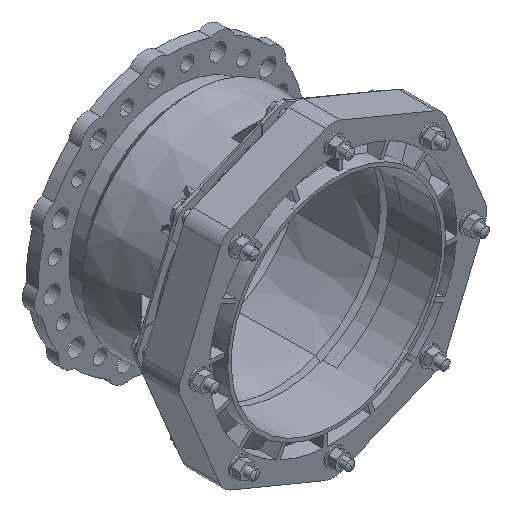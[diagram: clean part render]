
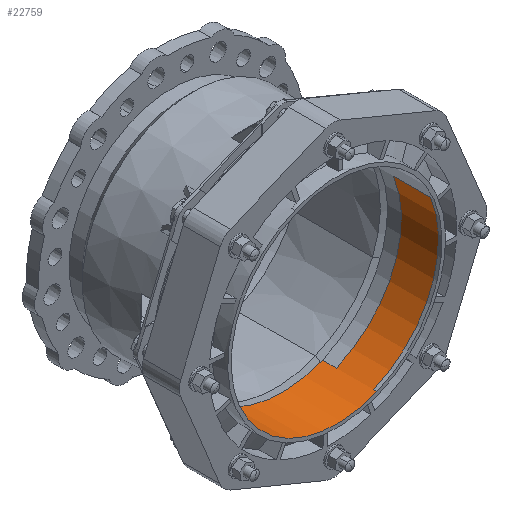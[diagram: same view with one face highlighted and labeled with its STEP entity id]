
A CAD part, isometric view. The second image highlights one B-rep face of the part: STEP entity #22759.
In plain terms, the highlighted cylindrical face has radius 179 mm (diameter 358 mm), a partial arc.
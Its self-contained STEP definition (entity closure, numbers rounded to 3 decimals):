
#19932=CARTESIAN_POINT('',(0.,0.,-86.523));
#19933=DIRECTION('',(0.,0.,1.));
#19934=DIRECTION('',(0.,1.,0.));
#19935=AXIS2_PLACEMENT_3D('',#19932,#19933,#19934);
#19937=CARTESIAN_POINT('',(0.,0.,-63.));
#19938=DIRECTION('',(0.,0.,1.));
#19939=DIRECTION('',(0.,-1.,0.));
#19940=AXIS2_PLACEMENT_3D('',#19937,#19938,#19939);
#19942=DIRECTION('',(0.,0.,-1.));
#19943=VECTOR('',#19942,63.);
#19944=CARTESIAN_POINT('',(179.,0.,0.));
#19945=LINE('',#19944,#19943);
#19946=CARTESIAN_POINT('',(0.,0.,0.));
#19947=DIRECTION('',(0.,0.,1.));
#19948=DIRECTION('',(0.,-1.,0.));
#19949=AXIS2_PLACEMENT_3D('',#19946,#19947,#19948);
#19951=CARTESIAN_POINT('',(0.,0.,6.));
#19952=DIRECTION('',(0.,0.,1.));
#19953=DIRECTION('',(0.,1.,0.));
#19954=AXIS2_PLACEMENT_3D('',#19951,#19952,#19953);
#19956=CARTESIAN_POINT('',(0.,0.,0.));
#19957=DIRECTION('',(0.,0.,1.));
#19958=DIRECTION('',(0.,1.,0.));
#19959=AXIS2_PLACEMENT_3D('',#19956,#19957,#19958);
#19961=DIRECTION('',(0.,0.,-1.));
#19962=VECTOR('',#19961,6.);
#19963=CARTESIAN_POINT('',(0.,179.,6.));
#19964=LINE('',#19963,#19962);
#19970=DIRECTION('',(0.,0.,-1.));
#19971=VECTOR('',#19970,6.);
#19972=CARTESIAN_POINT('',(0.,-179.,6.));
#19973=LINE('',#19972,#19971);
#19974=DIRECTION('',(0.,0.,-1.));
#19975=VECTOR('',#19974,23.523);
#19976=CARTESIAN_POINT('',(0.,-179.,-63.));
#19977=LINE('',#19976,#19975);
#19978=DIRECTION('',(0.,0.,-1.));
#19979=VECTOR('',#19978,23.523);
#19980=CARTESIAN_POINT('',(0.,179.,-63.));
#19981=LINE('',#19980,#19979);
#19982=CARTESIAN_POINT('',(0.,0.,-63.));
#19983=DIRECTION('',(0.,0.,1.));
#19984=DIRECTION('',(0.,1.,0.));
#19985=AXIS2_PLACEMENT_3D('',#19982,#19983,#19984);
#19987=DIRECTION('',(0.,0.,-1.));
#19988=VECTOR('',#19987,63.);
#19989=CARTESIAN_POINT('',(-179.,0.,0.));
#19990=LINE('',#19989,#19988);
#20939=CARTESIAN_POINT('',(0.,179.,6.));
#20940=CARTESIAN_POINT('',(0.,-179.,6.));
#20941=VERTEX_POINT('',#20939);
#20942=VERTEX_POINT('',#20940);
#20943=CARTESIAN_POINT('',(0.,179.,0.));
#20944=CARTESIAN_POINT('',(-179.,0.,0.));
#20945=VERTEX_POINT('',#20943);
#20946=VERTEX_POINT('',#20944);
#20947=CARTESIAN_POINT('',(0.,-179.,0.));
#20948=CARTESIAN_POINT('',(179.,0.,0.));
#20949=VERTEX_POINT('',#20947);
#20950=VERTEX_POINT('',#20948);
#20951=CARTESIAN_POINT('',(179.,0.,-63.));
#20952=VERTEX_POINT('',#20951);
#20953=CARTESIAN_POINT('',(-179.,0.,-63.));
#20954=VERTEX_POINT('',#20953);
#21395=CARTESIAN_POINT('',(0.,179.,-86.523));
#21397=VERTEX_POINT('',#21395);
#21399=CARTESIAN_POINT('',(0.,-179.,-86.523));
#21401=VERTEX_POINT('',#21399);
#21403=CARTESIAN_POINT('',(0.,179.,-63.));
#21404=VERTEX_POINT('',#21403);
#21409=CARTESIAN_POINT('',(0.,-179.,-63.));
#21410=VERTEX_POINT('',#21409);
#22729=CARTESIAN_POINT('',(0.,0.,0.));
#22730=DIRECTION('',(0.,0.,1.));
#22731=DIRECTION('',(1.,0.,0.));
#22732=AXIS2_PLACEMENT_3D('',#22729,#22730,#22731);
#22733=CYLINDRICAL_SURFACE('',#22732,179.);
#22735=ORIENTED_EDGE('',*,*,#22734,.T.);
#22737=ORIENTED_EDGE('',*,*,#22736,.F.);
#22739=ORIENTED_EDGE('',*,*,#22738,.T.);
#22740=ORIENTED_EDGE('',*,*,#22724,.T.);
#22742=ORIENTED_EDGE('',*,*,#22741,.F.);
#22744=ORIENTED_EDGE('',*,*,#22743,.T.);
#22746=ORIENTED_EDGE('',*,*,#22745,.F.);
#22748=ORIENTED_EDGE('',*,*,#22747,.F.);
#22750=ORIENTED_EDGE('',*,*,#22749,.F.);
#22752=ORIENTED_EDGE('',*,*,#22751,.F.);
#22754=ORIENTED_EDGE('',*,*,#22753,.T.);
#22756=ORIENTED_EDGE('',*,*,#22755,.T.);
#22757=EDGE_LOOP('',(#22735,#22737,#22739,#22740,#22742,#22744,#22746,#22748,
#22750,#22752,#22754,#22756));
#22758=FACE_OUTER_BOUND('',#22757,.F.);
#22759=ADVANCED_FACE('',(#22758),#22733,.F.);
#19936=CIRCLE('',#19935,179.);
#19941=CIRCLE('',#19940,179.);
#19950=CIRCLE('',#19949,179.);
#19955=CIRCLE('',#19954,179.);
#19960=CIRCLE('',#19959,179.);
#19986=CIRCLE('',#19985,179.);
#22724=EDGE_CURVE('',#21397,#21401,#19936,.T.);
#22734=EDGE_CURVE('',#20946,#20954,#19990,.T.);
#22736=EDGE_CURVE('',#21404,#20954,#19986,.T.);
#22738=EDGE_CURVE('',#21404,#21397,#19981,.T.);
#22741=EDGE_CURVE('',#21410,#21401,#19977,.T.);
#22743=EDGE_CURVE('',#21410,#20952,#19941,.T.);
#22745=EDGE_CURVE('',#20950,#20952,#19945,.T.);
#22747=EDGE_CURVE('',#20949,#20950,#19950,.T.);
#22749=EDGE_CURVE('',#20942,#20949,#19973,.T.);
#22751=EDGE_CURVE('',#20941,#20942,#19955,.T.);
#22753=EDGE_CURVE('',#20941,#20945,#19964,.T.);
#22755=EDGE_CURVE('',#20945,#20946,#19960,.T.);
